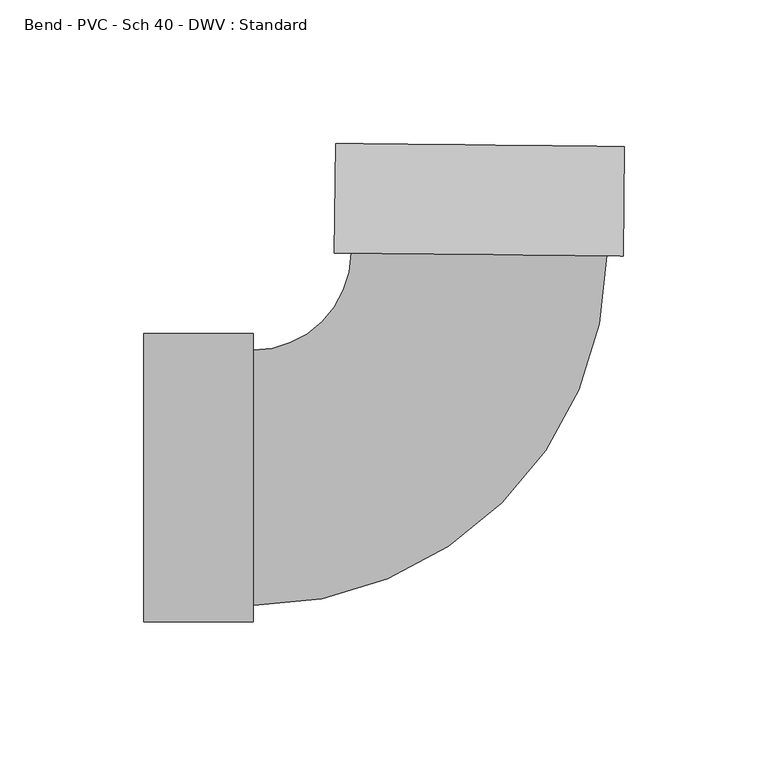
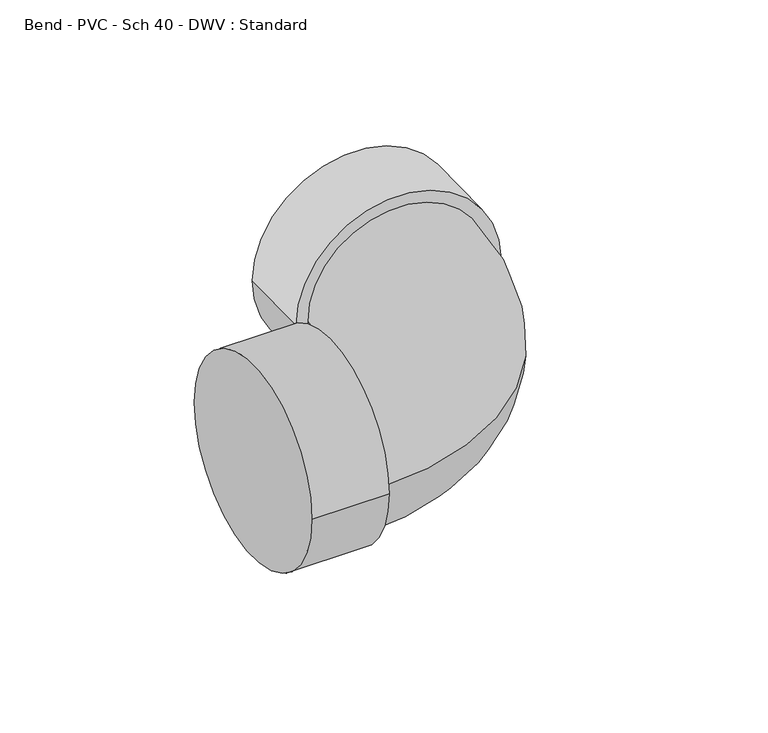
"""IFC4 building model written with IfcOpenShell, lengths in millimetres: pipe fitting geometry, Bend - PVC - Sch 40 - DWV : Standard."""

import ifcopenshell
import ifcopenshell.guid

model = None  # the IFC model being written
_history = None  # IfcOwnerHistory: only IFC2X3 demands one
_inside = {}  # id of a spatial element -> (the spatial element, [elements in it])
_under = {}  # id of a project, library or spatial element -> (it, [spatial elements below it])
_declared = {}  # id of a project -> (the project, [libraries it declares])
_typed = {}  # id of a type object -> (the type object, [elements of that type])
_made_of = {}  # id of a material, layer set ... -> (it, [elements and type objects made of it])


def new_model(schema):
    """Start an empty IFC model of exactly this schema.

    Asked for "IFC4X3", IfcOpenShell would pick the latest addendum, in which some entities
    have other attributes; the version numbers below select the first issue.
    IFC2X3 requires an IfcOwnerHistory on every rooted entity: one is made here for all.
    """
    global model, _history
    if schema == "IFC4X3":
        model = ifcopenshell.file(schema_version=(4, 3, 0, 0))
    else:
        model = ifcopenshell.file(schema=schema)
    _inside.clear()
    _under.clear()
    _declared.clear()
    _typed.clear()
    _made_of.clear()
    _history = None
    if model.schema == "IFC2X3":
        org = make("IfcOrganization", Name="unknown")
        user = make(
            "IfcPersonAndOrganization",
            ThePerson=make("IfcPerson", FamilyName="unknown"),
            TheOrganization=org,
        )
        app = make(
            "IfcApplication",
            ApplicationDeveloper=org,
            Version="unknown",
            ApplicationFullName="unknown",
            ApplicationIdentifier="unknown",
        )
        _history = make(
            "IfcOwnerHistory",
            OwningUser=user,
            OwningApplication=app,
            ChangeAction="ADDED",
            CreationDate=0,
        )
    return model


def make(cls, **values):
    """One entity of the class cls with the attributes given. An attribute that is None is left unset."""
    return model.create_entity(
        cls, **{name: value for name, value in values.items() if value is not None}
    )


def rooted(cls, **values):
    """An entity with a GlobalId (a new one), such as an element, a storey or a relation."""
    return make(cls, GlobalId=ifcopenshell.guid.new(), OwnerHistory=_history, **values)


def si_unit(unit_type, name, prefix=None):
    """IfcSIUnit, for example si_unit("LENGTHUNIT", "METRE", prefix="MILLI")."""
    return make("IfcSIUnit", UnitType=unit_type, Prefix=prefix, Name=name)


def assignment(units):
    """IfcUnitAssignment: the units of a project."""
    return None if units is None else make("IfcUnitAssignment", Units=units)


def point(xyz):
    """IfcCartesianPoint."""
    return None if xyz is None else make("IfcCartesianPoint", Coordinates=xyz)


def direction(xyz):
    """IfcDirection."""
    return None if xyz is None else make("IfcDirection", DirectionRatios=xyz)


def frame(location, z_axis=None, x_axis=None):
    """IfcAxis2Placement3D, a coordinate frame: its origin and axes. An axis left out is left unset."""
    return make(
        "IfcAxis2Placement3D",
        Location=point(location),
        Axis=direction(z_axis),
        RefDirection=direction(x_axis),
    )


def origin():
    """The frame at (0, 0, 0) with its axes left unset."""
    return frame((0.0, 0.0, 0.0))


def place(relative_to, where):
    """IfcLocalPlacement: puts the frame where relative to a parent placement (None: the world)."""
    return make(
        "IfcLocalPlacement", PlacementRelTo=relative_to, RelativePlacement=where
    )


def context(
    kind, dimensions, precision=None, world=None, true_north=None, identifier=None
):
    """IfcGeometricRepresentationContext, for example the 3D "Model" context."""
    return make(
        "IfcGeometricRepresentationContext",
        ContextIdentifier=identifier,
        ContextType=kind,
        CoordinateSpaceDimension=dimensions,
        Precision=precision,
        WorldCoordinateSystem=world,
        TrueNorth=true_north,
    )


def project(units=None, contexts=None):
    """IfcProject with its units and contexts."""
    return rooted(
        "IfcProject",
        Name="project",
        RepresentationContexts=contexts,
        UnitsInContext=assignment(units),
    )


def spatial(cls, under=None, at=None, **own):
    """A site, building, storey or space (cls), placed at a placement, below another one or the project."""
    s = rooted(cls, ObjectPlacement=at, **own)
    if under is not None:
        _under.setdefault(under.id(), (under, []))[1].append(s)
    return s


def circle_curve(where, radius):
    """IfcCircle in the frame where."""
    return make("IfcCircle", Position=where, Radius=radius)


def ellipse_curve(where, semi_axis1, semi_axis2):
    """IfcEllipse in the frame where."""
    return make(
        "IfcEllipse", Position=where, SemiAxis1=semi_axis1, SemiAxis2=semi_axis2
    )


def trimmed(basis, trim1, trim2, sense, master):
    """IfcTrimmedCurve: the piece of a basis curve between two trims."""
    return make(
        "IfcTrimmedCurve",
        BasisCurve=basis,
        Trim1=trim1,
        Trim2=trim2,
        SenseAgreement=sense,
        MasterRepresentation=master,
    )


def shape(context_of_items, identifier, shape_type, items):
    """IfcShapeRepresentation: the items that make up one representation, for example the "Body"."""
    return make(
        "IfcShapeRepresentation",
        ContextOfItems=context_of_items,
        RepresentationIdentifier=identifier,
        RepresentationType=shape_type,
        Items=items,
    )


def source(mapping_origin, context_of_items, identifier, shape_type, items):
    """IfcRepresentationMap: a shape defined once, which mapped items show again and again."""
    return make(
        "IfcRepresentationMap",
        MappingOrigin=mapping_origin,
        MappedRepresentation=shape(context_of_items, identifier, shape_type, items),
    )


def transform(
    local_origin,
    x_axis=None,
    y_axis=None,
    z_axis=None,
    scale=None,
    scale2=None,
    scale3=None,
    uniform=True,
):
    """IfcCartesianTransformationOperator3D, or its non-uniform kind. x_axis, y_axis, z_axis: its Axis1, 2, 3."""
    if uniform:
        return make(
            "IfcCartesianTransformationOperator3D",
            Axis1=direction(x_axis),
            Axis2=direction(y_axis),
            LocalOrigin=point(local_origin),
            Scale=scale,
            Axis3=direction(z_axis),
        )
    return make(
        "IfcCartesianTransformationOperator3DnonUniform",
        Axis1=direction(x_axis),
        Axis2=direction(y_axis),
        LocalOrigin=point(local_origin),
        Scale=scale,
        Axis3=direction(z_axis),
        Scale2=scale2,
        Scale3=scale3,
    )


def mapped(mapping_source, mapping_target):
    """IfcMappedItem: shows the shape of a source again, moved by a transform."""
    return make(
        "IfcMappedItem", MappingSource=mapping_source, MappingTarget=mapping_target
    )


def made_of(thing, what):
    """Note that an element or type object is made of a material, layer set ...; save() writes the relation."""
    if what is not None:
        _made_of.setdefault(what.id(), (what, []))[1].append(thing)
    return thing


def element(
    cls,
    number,
    at=None,
    inside=None,
    cuts=None,
    type_object=None,
    material=None,
    context=None,
    identifier="Body",
    shape_type=None,
    held_by="IfcProductDefinitionShape",
    body=None,
    shapes=None,
    **own,
):
    """One element of the class cls, such as IfcWall. Its Tag is "e" and its number.

    at: its placement. inside: the storey or other place that contains it. cuts: it is an
    opening in that element (IfcRelVoidsElement). A single representation is given by context,
    identifier, shape_type and body (its items); several are given by shapes. held_by: the class
    of the entity that holds the representations. save() writes the other relations.
    """
    e = rooted(cls, Tag="e%d" % number, ObjectPlacement=at, **own)
    if body is not None:
        shapes = [shape(context, identifier, shape_type, body)]
    if shapes is not None:
        e.Representation = make(held_by, Representations=shapes)
    if inside is not None:
        _inside.setdefault(inside.id(), (inside, []))[1].append(e)
    if cuts is not None:
        rooted(
            "IfcRelVoidsElement", RelatingBuildingElement=cuts, RelatedOpeningElement=e
        )
    if type_object is not None:
        _typed.setdefault(type_object.id(), (type_object, []))[1].append(e)
    return made_of(e, material)


def aggregate(whole, parts):
    """IfcRelAggregates: a whole, such as a stair, and the parts it consists of."""
    return rooted("IfcRelAggregates", RelatingObject=whole, RelatedObjects=parts)


def save(model, path):
    """Write the relations noted so far, then the file.

    IfcRelAggregates (storeys below a building ...), IfcRelContainedInSpatialStructure (elements
    in a storey), IfcRelDefinesByType, IfcRelAssociatesMaterial and IfcRelDeclares: one each for
    every whole, place, type object, material and project.
    """
    for whole, parts in _under.values():
        aggregate(whole, parts)
    for where, things in _inside.values():
        rooted(
            "IfcRelContainedInSpatialStructure",
            RelatedElements=things,
            RelatingStructure=where,
        )
    for kind, things in _typed.values():
        rooted("IfcRelDefinesByType", RelatedObjects=things, RelatingType=kind)
    for what, things in _made_of.values():
        rooted("IfcRelAssociatesMaterial", RelatedObjects=things, RelatingMaterial=what)
    for by, libraries in _declared.values():
        rooted("IfcRelDeclares", RelatingContext=by, RelatedDefinitions=libraries)
    model.write(path)


def plane_surface(at):
    """IfcPlane: the flat surface through the origin of the frame at, square to its z axis."""
    return make("IfcPlane", Position=at)


def cylinder_surface(at, radius):
    """IfcCylindricalSurface: all points at the distance radius from the z axis of the frame at."""
    return make("IfcCylindricalSurface", Position=at, Radius=radius)


def revolved_surface(curve, axis_point, axis_direction):
    """IfcSurfaceOfRevolution: the curve turned about the line through axis_point along axis_direction."""
    return make(
        "IfcSurfaceOfRevolution",
        SweptCurve=make("IfcArbitraryOpenProfileDef", ProfileType="CURVE", Curve=curve),
        AxisPosition=make("IfcAxis1Placement", Location=point(axis_point), Axis=direction(axis_direction)),
    )


def advanced_brep(points, edges, surfaces, faces):
    """IfcAdvancedBrep: a solid bounded by faces that lie on surfaces and meet in shared edges.

    An edge is (start, end): straight between two places in points (the first is 0);
    or (start, end, curve); or (start, end, curve, False) where it runs against its curve.
    A face is (place in surfaces, loops), or (place, loops, False) where it looks against
    its surface's normal. A loop lists edges by number (the first is 1), with a minus sign
    where the edge is run from its end to its start. The first loop is the outer one.
    """
    corners = [point(p) for p in points]
    vertices = [make("IfcVertexPoint", VertexGeometry=c) for c in corners]
    made = []
    for start, end, *more in edges:
        made.append(
            make(
                "IfcEdgeCurve",
                EdgeStart=vertices[start],
                EdgeEnd=vertices[end],
                EdgeGeometry=more[0] if more else make("IfcPolyline", Points=[corners[start], corners[end]]),
                SameSense=more[1] if len(more) > 1 else True,
            )
        )
    hull = []
    for where, loops, *sense in faces:
        bounds = []
        for j, loop in enumerate(loops):
            ring = [make("IfcOrientedEdge", EdgeElement=made[abs(k) - 1], Orientation=k > 0) for k in loop]
            bounds.append(
                make(
                    "IfcFaceOuterBound" if j == 0 else "IfcFaceBound",
                    Bound=make("IfcEdgeLoop", EdgeList=ring),
                    Orientation=True,
                )
            )
        hull.append(make("IfcAdvancedFace", Bounds=bounds, FaceSurface=surfaces[where], SameSense=sense[0] if sense else True))
    return make("IfcAdvancedBrep", Outer=make("IfcClosedShell", CfsFaces=hull))


def bend_pvc_sch_40_dwv_standard_f7db62e3(model_context):
    return source(origin(), model_context, "Body", "AdvancedBrep", [
        advanced_brep(
        [(-115.9002, -50.2666, 0.0), (-115.9002, 50.2666, 0.0), (-77.8002, -50.2666, 0.0), (-77.8002, 50.2666, 0.0), (-77.8002, -44.45, 0.0), (-77.8002, 44.45, 0.0), (-43.6367367, 78.2592412, 0.0), (45.2584349, 77.3327078, 0.0), (51.074719, 77.272086, 0.0), (-49.4530208, 78.3198629, 0.0), (51.4718047, 115.3700167, 0.0), (-49.055935, 116.4177936, 0.0)],
        [
            (0, 1, circle_curve(frame((-115.9002, 0.0, 0.0), z_axis=(-1.0, 0.0, 0.0), x_axis=(0.0, 1.0, 0.0)), 50.2666)),
            (1, 0, circle_curve(frame((-115.9002, 0.0, 0.0), z_axis=(-1.0, 0.0, 0.0), x_axis=(0.0, 1.0, 0.0)), 50.2666)),
            (2, 3, circle_curve(frame((-77.8002, 0.0, 0.0), z_axis=(1.0, 0.0, 0.0), x_axis=(0.0, 1.0, 0.0)), 50.2666)),
            (3, 2, circle_curve(frame((-77.8002, 0.0, 0.0), z_axis=(1.0, 0.0, 0.0), x_axis=(0.0, 1.0, 0.0)), 50.2666)),
            (4, 5, circle_curve(frame((-77.8002, 0.0, 0.0), z_axis=(-1.0, 0.0, 0.0), x_axis=(0.0, 1.0, 0.0)), 44.45)),
            (5, 4, circle_curve(frame((-77.8002, 0.0, 0.0), z_axis=(-1.0, 0.0, 0.0), x_axis=(0.0, 1.0, 0.0)), 44.45)),
            (0, 2),
            (3, 1),
            (6, 5, circle_curve(frame((-77.8002, 78.6153189, 0.0), z_axis=(0.0, 0.0, -1.0), x_axis=(0.0, -1.0, 0.0)), 34.1653189)),
            (4, 7, circle_curve(frame((-77.8002, 78.6153189, 0.0), z_axis=(0.0, 0.0, 1.0), x_axis=(0.0, -1.0, 0.0)), 123.0653189)),
            (7, 6, circle_curve(frame((0.8108491, 77.7959745, 0.0), z_axis=(-0.01042219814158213, -0.9999456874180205, 0.0), x_axis=(-0.9999456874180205, 0.01042219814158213, 0.0)), 44.45)),
            (6, 7, circle_curve(frame((0.8108491, 77.7959745, 0.0), z_axis=(-0.01042219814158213, -0.9999456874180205, 0.0), x_axis=(-0.9999456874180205, 0.01042219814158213, 0.0)), 44.45)),
            (8, 9, circle_curve(frame((0.8108491, 77.7959745, 0.0), z_axis=(-0.010422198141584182, -0.9999456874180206, 0.0), x_axis=(-0.9999456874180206, 0.010422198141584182, 0.0)), 50.2666)),
            (9, 8, circle_curve(frame((0.8108491, 77.7959745, 0.0), z_axis=(-0.010422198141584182, -0.9999456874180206, 0.0), x_axis=(-0.9999456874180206, 0.010422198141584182, 0.0)), 50.2666)),
            (10, 11, circle_curve(frame((1.2079348, 115.8939052, 0.0), z_axis=(0.010422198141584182, 0.9999456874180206, 0.0), x_axis=(-0.9999456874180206, 0.010422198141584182, 0.0)), 50.2666)),
            (11, 10, circle_curve(frame((1.2079348, 115.8939052, 0.0), z_axis=(0.010422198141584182, 0.9999456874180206, 0.0), x_axis=(-0.9999456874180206, 0.010422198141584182, 0.0)), 50.2666)),
            (8, 10),
            (11, 9),
        ],
        [
            plane_surface(frame((-115.9002, 0.0, 0.0), z_axis=(-1.0, 0.0, 0.0), x_axis=(0.0, 0.0, 1.0))),
            plane_surface(frame((-77.8002, 0.0, 0.0), z_axis=(1.0, 0.0, 0.0), x_axis=(0.0, 0.0, 1.0))),
            cylinder_surface(frame((-115.9002, 0.0, 0.0), z_axis=(-1.0, 0.0, 0.0), x_axis=(0.0, 1.0, 0.0)), 50.2666),
            revolved_surface(trimmed(ellipse_curve(frame((-77.8002, 0.0, 0.0), z_axis=(-1.0, 0.0, 0.0), x_axis=(0.0, 1.0, 0.0)), 44.45, 44.45), [point((-77.8002, -44.45, 0.0))], [point((-77.8002, 44.45, 0.0))], True, "CARTESIAN"), (-77.8002, 78.6153189, 0.0), (0.0, 0.0, 1.0)),
            revolved_surface(trimmed(ellipse_curve(frame((-77.8002, 0.0, 0.0), z_axis=(-1.0, 0.0, 0.0), x_axis=(0.0, 1.0, 0.0)), 44.45, 44.45), [point((-77.8002, 44.45, 0.0))], [point((-77.8002, -44.45, 0.0))], True, "CARTESIAN"), (-77.8002, 78.6153189, 0.0), (0.0, 0.0, 1.0)),
            plane_surface(frame((0.8108491, 77.7959745, 0.0), z_axis=(-0.010422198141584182, -0.9999456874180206, 0.0), x_axis=(0.0, 0.0, 1.0))),
            plane_surface(frame((1.2079348, 115.8939052, 0.0), z_axis=(0.010422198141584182, 0.9999456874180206, 0.0), x_axis=(0.0, 0.0, 1.0))),
            cylinder_surface(frame((0.8108491, 77.7959745, 0.0), z_axis=(-0.010422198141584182, -0.9999456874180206, 0.0), x_axis=(-0.9999456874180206, 0.010422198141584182, 0.0)), 50.2666),
        ],
        [
            (0, [[1, 2]]),
            (1, [[3, 4], [5, 6]]),
            (2, [[-1, 7, -4, 8]]),
            (2, [[-2, -8, -3, -7]]),
            (3, [[9, -5, 10, 11]]),
            (4, [[-9, 12, -10, -6]]),
            (5, [[13, 14], [-11, -12]]),
            (6, [[15, 16]]),
            (7, [[-13, 17, -16, 18]]),
            (7, [[-14, -18, -15, -17]]),
        ],
    ),
    ])


if __name__ == "__main__":
    model = new_model("IFC4")
    model_context = context("Model", 3, world=origin())
    ifc_project = project(units=[si_unit("LENGTHUNIT", "METRE", prefix="MILLI")], contexts=[model_context])
    site = spatial("IfcSite", under=ifc_project)
    building = spatial("IfcBuilding", under=site)
    placement = place(None, origin())
    bend_pvc_sch_40_dwv_standard_shape = bend_pvc_sch_40_dwv_standard_f7db62e3(model_context)
    element("IfcPipeFitting", 1, ObjectType="Bend - PVC - Sch 40 - DWV : Standard", at=placement, inside=building, context=model_context, shape_type="MappedRepresentation", body=[
        mapped(bend_pvc_sch_40_dwv_standard_shape, transform((0.0, 0.0, 0.0), x_axis=(1.0, 0.0, 0.0), y_axis=(0.0, 1.0, 0.0), z_axis=(0.0, 0.0, 1.0))),
    ])
    save(model, "model.ifc")
